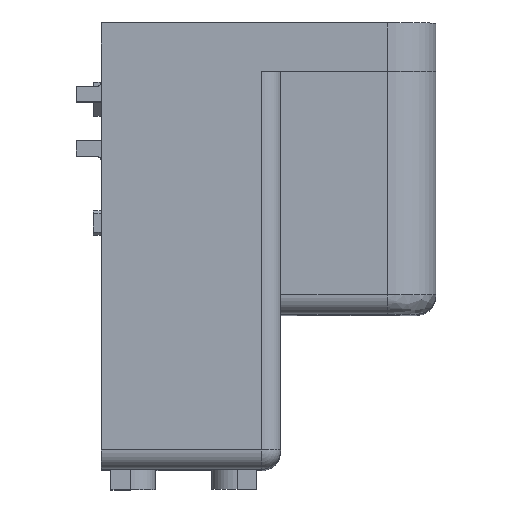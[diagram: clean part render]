
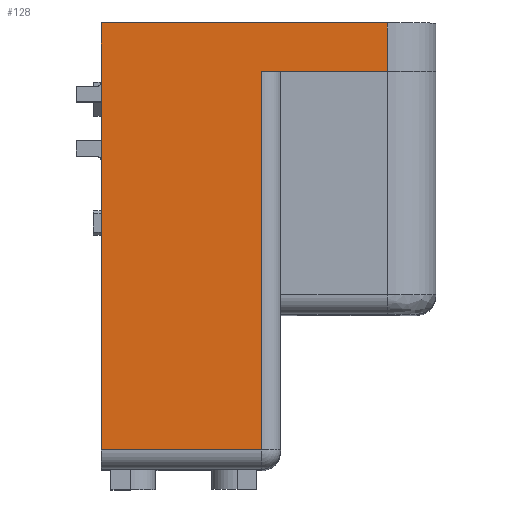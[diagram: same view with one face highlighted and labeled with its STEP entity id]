
A CAD part, top view. The second image highlights one B-rep face of the part: STEP entity #128.
In plain terms, the highlighted planar face has unit normal (0, 0, 1).
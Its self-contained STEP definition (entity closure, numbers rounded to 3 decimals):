
#128=ADVANCED_FACE('',(#531),#530,.F.);
#530=PLANE('',#2926);
#531=FACE_OUTER_BOUND('',#2927,.T.);
#2923=CARTESIAN_POINT('',(46.05,-0.6,62.2));
#2924=DIRECTION('',(0.,0.,-1.));
#2925=DIRECTION('',(1.,0.,0.));
#2926=AXIS2_PLACEMENT_3D('',#2923,#2924,#2925);
#2927=EDGE_LOOP('',(#4296,#4297,#4298,#4299,#4300,#4301));
#4296=ORIENTED_EDGE('',*,*,#5496,.T.);
#4297=ORIENTED_EDGE('',*,*,#5393,.F.);
#4298=ORIENTED_EDGE('',*,*,#5497,.T.);
#4299=ORIENTED_EDGE('',*,*,#5366,.T.);
#4300=ORIENTED_EDGE('',*,*,#5445,.T.);
#4301=ORIENTED_EDGE('',*,*,#5498,.T.);
#5366=EDGE_CURVE('',#6113,#6106,#6114,.T.);
#5393=EDGE_CURVE('',#6295,#6302,#6303,.T.);
#5445=EDGE_CURVE('',#6106,#6650,#6657,.T.);
#5496=EDGE_CURVE('',#7010,#6302,#7011,.T.);
#5497=EDGE_CURVE('',#6295,#6113,#7017,.T.);
#5498=EDGE_CURVE('',#6650,#7010,#7023,.T.);
#6106=VERTEX_POINT('',#10092);
#6113=VERTEX_POINT('',#10096);
#6114=LINE('',#10097,#10098);
#6295=VERTEX_POINT('',#10216);
#6302=VERTEX_POINT('',#10221);
#6303=LINE('',#10222,#10223);
#6650=VERTEX_POINT('',#10430);
#6657=LINE('',#10435,#10436);
#7010=VERTEX_POINT('',#10635);
#7011=LINE('',#10636,#10637);
#7017=LINE('',#10639,#10640);
#7023=LINE('',#10642,#10643);
#10092=CARTESIAN_POINT('',(49.,-5.,62.2));
#10096=CARTESIAN_POINT('',(78.5,-5.,62.2));
#10097=CARTESIAN_POINT('',(78.5,-5.,62.2));
#10098=VECTOR('',#10099,29.5);
#10099=DIRECTION('',(-1.,0.,0.));
#10216=CARTESIAN_POINT('',(78.5,-10.,62.2));
#10221=CARTESIAN_POINT('',(65.5,-10.,62.2));
#10222=CARTESIAN_POINT('',(78.5,-10.,62.2));
#10223=VECTOR('',#10224,13.);
#10224=DIRECTION('',(-1.,0.,0.));
#10430=CARTESIAN_POINT('',(49.,-49.,62.2));
#10435=CARTESIAN_POINT('',(49.,-5.,62.2));
#10436=VECTOR('',#10437,44.);
#10437=DIRECTION('',(0.,-1.,0.));
#10635=CARTESIAN_POINT('',(65.5,-49.,62.2));
#10636=CARTESIAN_POINT('',(65.5,-49.,62.2));
#10637=VECTOR('',#10638,39.);
#10638=DIRECTION('',(0.,1.,0.));
#10639=CARTESIAN_POINT('',(78.5,-10.,62.2));
#10640=VECTOR('',#10641,5.);
#10641=DIRECTION('',(0.,1.,0.));
#10642=CARTESIAN_POINT('',(49.,-49.,62.2));
#10643=VECTOR('',#10644,16.5);
#10644=DIRECTION('',(1.,0.,0.));
